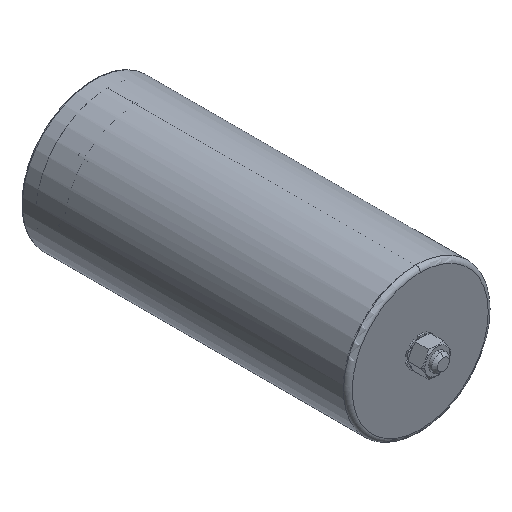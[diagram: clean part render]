
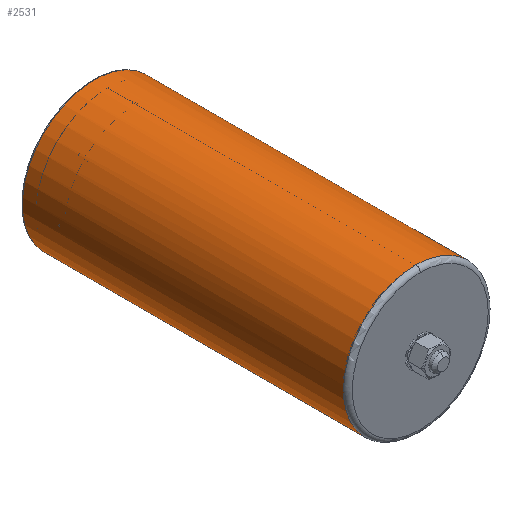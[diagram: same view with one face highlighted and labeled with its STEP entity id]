
A CAD part, isometric view. The second image highlights one B-rep face of the part: STEP entity #2531.
In plain terms, the highlighted cylindrical face has radius 50 mm (diameter 100 mm), a partial arc.
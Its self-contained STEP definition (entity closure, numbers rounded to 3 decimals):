
#356 = ORIENTED_EDGE ( 'NONE', *, *, #7523, .T. ) ;
#553 = FACE_OUTER_BOUND ( 'NONE', #4190, .T. ) ;
#598 = CIRCLE ( 'NONE', #6397, 50. ) ;
#675 = CARTESIAN_POINT ( 'NONE',  ( 35.355, 225., 35.355 ) ) ;
#1211 = DIRECTION ( 'NONE',  ( 0., 0., 1. ) ) ;
#1949 = CARTESIAN_POINT ( 'NONE',  ( 0., 3., 0. ) ) ;
#1978 = AXIS2_PLACEMENT_3D ( 'NONE', #4174, #11347, #7693 ) ;
#2087 = CARTESIAN_POINT ( 'NONE',  ( 0., 3., 0. ) ) ;
#2372 = CARTESIAN_POINT ( 'NONE',  ( -35.355, 225., -35.355 ) ) ;
#2385 = VERTEX_POINT ( 'NONE', #4883 ) ;
#2487 = VERTEX_POINT ( 'NONE', #2372 ) ;
#2531 = ADVANCED_FACE ( 'NONE', ( #553 ), #11412, .T. ) ;
#2938 = DIRECTION ( 'NONE',  ( 0., 1., 0. ) ) ;
#2951 = CARTESIAN_POINT ( 'NONE',  ( 0., 3., 50. ) ) ;
#2998 = ORIENTED_EDGE ( 'NONE', *, *, #3291, .T. ) ;
#3291 = EDGE_CURVE ( 'NONE', #5604, #11155, #10059, .T. ) ;
#3296 = AXIS2_PLACEMENT_3D ( 'NONE', #2087, #5666, #1211 ) ;
#3383 = DIRECTION ( 'NONE',  ( 0., 1., 0. ) ) ;
#3450 = DIRECTION ( 'NONE',  ( -0.707, 0., -0.707 ) ) ;
#3642 = DIRECTION ( 'NONE',  ( 0., 0., 1. ) ) ;
#3815 = VERTEX_POINT ( 'NONE', #675 ) ;
#3996 = CIRCLE ( 'NONE', #5693, 50. ) ;
#4174 = CARTESIAN_POINT ( 'NONE',  ( 0., 216., 0. ) ) ;
#4190 = EDGE_LOOP ( 'NONE', ( #6999, #6983, #2998, #5986, #356 ) ) ;
#4234 = CARTESIAN_POINT ( 'NONE',  ( 35.355, 216., 35.355 ) ) ;
#4777 = EDGE_CURVE ( 'NONE', #2385, #5604, #3996, .T. ) ;
#4883 = CARTESIAN_POINT ( 'NONE',  ( -35.355, 3., -35.355 ) ) ;
#5088 = VECTOR ( 'NONE', #7808, 1000. ) ;
#5331 = LINE ( 'NONE', #8921, #10183 ) ;
#5604 = VERTEX_POINT ( 'NONE', #2951 ) ;
#5666 = DIRECTION ( 'NONE',  ( 0., 1., 0. ) ) ;
#5693 = AXIS2_PLACEMENT_3D ( 'NONE', #1949, #2938, #3642 ) ;
#5888 = EDGE_CURVE ( 'NONE', #11155, #3815, #7918, .T. ) ;
#5986 = ORIENTED_EDGE ( 'NONE', *, *, #5888, .T. ) ;
#6336 = EDGE_CURVE ( 'NONE', #2385, #2487, #5331, .T. ) ;
#6397 = AXIS2_PLACEMENT_3D ( 'NONE', #8753, #7795, #3450 ) ;
#6983 = ORIENTED_EDGE ( 'NONE', *, *, #4777, .T. ) ;
#6999 = ORIENTED_EDGE ( 'NONE', *, *, #6336, .F. ) ;
#7523 = EDGE_CURVE ( 'NONE', #3815, #2487, #598, .T. ) ;
#7693 = DIRECTION ( 'NONE',  ( 0.707, 0., 0.707 ) ) ;
#7795 = DIRECTION ( 'NONE',  ( 0., -1., 0. ) ) ;
#7808 = DIRECTION ( 'NONE',  ( 0., 1., 0. ) ) ;
#7918 = LINE ( 'NONE', #4234, #5088 ) ;
#8753 = CARTESIAN_POINT ( 'NONE',  ( 0., 225., 0. ) ) ;
#8921 = CARTESIAN_POINT ( 'NONE',  ( -35.355, 216., -35.355 ) ) ;
#9092 = CARTESIAN_POINT ( 'NONE',  ( 35.355, 3., 35.355 ) ) ;
#10059 = CIRCLE ( 'NONE', #3296, 50. ) ;
#10183 = VECTOR ( 'NONE', #3383, 1000. ) ;
#11155 = VERTEX_POINT ( 'NONE', #9092 ) ;
#11347 = DIRECTION ( 'NONE',  ( 0., 1., 0. ) ) ;
#11412 = CYLINDRICAL_SURFACE ( 'NONE', #1978, 50. ) ;
